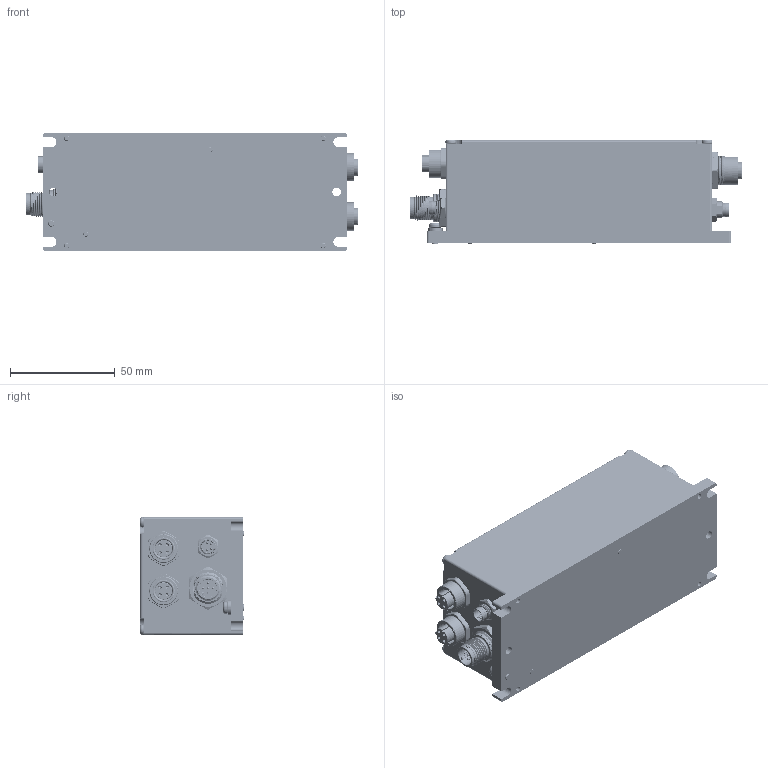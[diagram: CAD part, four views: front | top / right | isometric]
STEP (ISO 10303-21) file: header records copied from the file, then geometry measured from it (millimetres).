
FILE_DESCRIPTION((''),'2;1');
FILE_NAME('SN4D_ASM','2020-07-28T08:54:37',('Matteo Maccalli'),(''),'CREO PARAMETRIC BY PTC INC, 2019344','CREO PARAMETRIC BY PTC INC, 2019344','');
FILE_SCHEMA(('AUTOMOTIVE_DESIGN { 1 0 10303 214 1 1 1 1 }'));
Products named in the file (632): DISSIPATORE-01_IMD07-00; RK-00961-01; AD_00966-00; BOARD; USER_LIBRARY-DO-214AA_SMB_; Z602_ASM; CR1206; R608_ASM; FUSIBILE_1206_H0E6; FS601_ASM; FS600_ASM; USER_LIBRARY-RES0805-1; R515_ASM; USER_LIBRARY-SOT363-2; IC702_ASM; IC701_ASM; IC601_ASM; IC501_ASM; IC500_ASM; IC403_ASM; IC402_ASM; IC200_ASM; CAPC1608X09; C711_ASM; C710_ASM; C706_ASM; C606_ASM; C507_ASM; C422_ASM; C421_ASM; C205_ASM; SOLID-34126; COMPOUND-53460; 351560400_ASM; SOLID-53556; COMPOUND-62975; 353130460_ASM; CN2_ASM; SOLID-63116; COMPOUND-73155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
Assembly tree (1102 placements, depth 8):
  SN4D_ASM
    DISSIPATORE-01_IMD07-00
    RK-00961-01
    AD_00966-00  x2
    IMD07-01_2_ASM
      PCB_ASM
        BOARD
        Z602_ASM
          USER_LIBRARY-DO-214AA_SMB_
        R608_ASM
          CR1206
        FS601_ASM
          FUSIBILE_1206_H0E6
        FS600_ASM
          FUSIBILE_1206_H0E6
        R515_ASM
          USER_LIBRARY-RES0805-1
        IC702_ASM
          USER_LIBRARY-SOT363-2
        IC701_ASM
          USER_LIBRARY-SOT363-2
        IC601_ASM
          USER_LIBRARY-SOT363-2
        IC501_ASM
          USER_LIBRARY-SOT363-2
        IC500_ASM
          USER_LIBRARY-SOT363-2
        IC403_ASM
          USER_LIBRARY-SOT363-2
        IC402_ASM
          USER_LIBRARY-SOT363-2
        IC200_ASM
          USER_LIBRARY-SOT363-2
        C711_ASM
          CAPC1608X09
        C710_ASM
          CAPC1608X09
        C706_ASM
          CAPC1608X09
        C606_ASM
          CAPC1608X09
        C507_ASM
          CAPC1608X09
        C422_ASM
          CAPC1608X09
        C421_ASM
          CAPC1608X09
        C205_ASM
          CAPC1608X09
        CN2_ASM
          351560400_ASM
            SOLID-34126
            COMPOUND-53460
          353130460_ASM
            SOLID-53556
            COMPOUND-62975
        CN1_ASM
          353130560_ASM
            SOLID-63116
            COMPOUND-73155
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Bounding box: 158.2 x 49.86 x 56.2 mm (x, y, z)
Volume: 142770.1 mm3; surface area: 143334.3 mm2
Topology: 727 solids, 739 shells, 33521 faces, 86443 edges, 53305 vertices
Faces by surface type: plane 18825, cylinder 8659, sphere 2138, extrusion 1434, torus 1060, bspline 850, cone 555
Entity records: 628589 total; most frequent: CARTESIAN_POINT 175415, ORIENTED_EDGE 70907, DIRECTION 69039, EDGE_CURVE 35480, VECTOR 24631, LINE 23885, VERTEX_POINT 22942, PRESENTATION_STYLE_ASSIGNMENT 22577
